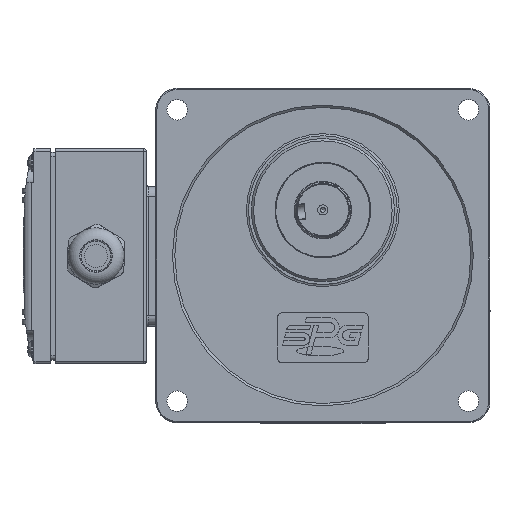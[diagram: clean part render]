
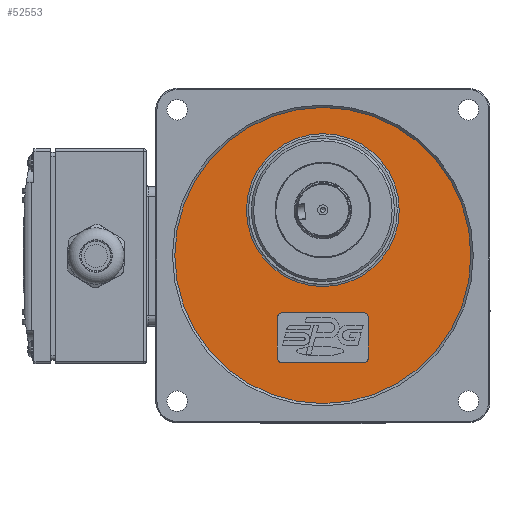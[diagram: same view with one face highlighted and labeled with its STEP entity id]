
A CAD part, top view. The second image highlights one B-rep face of the part: STEP entity #52553.
In plain terms, the highlighted planar face has unit normal (0, 0, 1).
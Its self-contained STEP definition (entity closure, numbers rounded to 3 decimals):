
#2970=FACE_BOUND('',#10686,.T.);
#2971=FACE_BOUND('',#10687,.T.);
#3884=PLANE('',#57782);
#7524=FACE_OUTER_BOUND('',#10685,.T.);
#10685=EDGE_LOOP('',(#44848));
#10686=EDGE_LOOP('',(#44849,#44850,#44851,#44852,#44853,#44854,#44855,#44856));
#10687=EDGE_LOOP('',(#44857));
#13864=CIRCLE('',#57781,32.);
#13865=CIRCLE('',#57783,62.);
#13866=CIRCLE('',#57784,2.);
#13867=CIRCLE('',#57785,2.);
#13868=CIRCLE('',#57786,2.);
#13869=CIRCLE('',#57787,2.);
#16416=LINE('',#114224,#19039);
#16417=LINE('',#114228,#19040);
#16418=LINE('',#114232,#19041);
#16419=LINE('',#114236,#19042);
#19039=VECTOR('',#70241,17.);
#19040=VECTOR('',#70244,34.);
#19041=VECTOR('',#70247,17.);
#19042=VECTOR('',#70250,34.);
#23570=VERTEX_POINT('',#114216);
#23571=VERTEX_POINT('',#114220);
#23572=VERTEX_POINT('',#114222);
#23573=VERTEX_POINT('',#114223);
#23574=VERTEX_POINT('',#114225);
#23575=VERTEX_POINT('',#114227);
#23576=VERTEX_POINT('',#114229);
#23577=VERTEX_POINT('',#114231);
#23578=VERTEX_POINT('',#114233);
#23579=VERTEX_POINT('',#114235);
#30769=EDGE_CURVE('',#23570,#23570,#13864,.T.);
#30770=EDGE_CURVE('',#23571,#23571,#13865,.T.);
#30771=EDGE_CURVE('',#23572,#23573,#16416,.T.);
#30772=EDGE_CURVE('',#23574,#23573,#13866,.T.);
#30773=EDGE_CURVE('',#23574,#23575,#16417,.T.);
#30774=EDGE_CURVE('',#23576,#23575,#13867,.T.);
#30775=EDGE_CURVE('',#23576,#23577,#16418,.T.);
#30776=EDGE_CURVE('',#23578,#23577,#13868,.T.);
#30777=EDGE_CURVE('',#23578,#23579,#16419,.T.);
#30778=EDGE_CURVE('',#23572,#23579,#13869,.T.);
#44848=ORIENTED_EDGE('',*,*,#30770,.T.);
#44849=ORIENTED_EDGE('',*,*,#30771,.T.);
#44850=ORIENTED_EDGE('',*,*,#30772,.F.);
#44851=ORIENTED_EDGE('',*,*,#30773,.T.);
#44852=ORIENTED_EDGE('',*,*,#30774,.F.);
#44853=ORIENTED_EDGE('',*,*,#30775,.T.);
#44854=ORIENTED_EDGE('',*,*,#30776,.F.);
#44855=ORIENTED_EDGE('',*,*,#30777,.T.);
#44856=ORIENTED_EDGE('',*,*,#30778,.F.);
#44857=ORIENTED_EDGE('',*,*,#30769,.F.);
#52553=ADVANCED_FACE('',(#7524,#2970,#2971),#3884,.F.);
#57781=AXIS2_PLACEMENT_3D('',#114218,#70235,#70236);
#57782=AXIS2_PLACEMENT_3D('',#114219,#70237,#70238);
#57783=AXIS2_PLACEMENT_3D('',#114221,#70239,#70240);
#57784=AXIS2_PLACEMENT_3D('',#114226,#70242,#70243);
#57785=AXIS2_PLACEMENT_3D('',#114230,#70245,#70246);
#57786=AXIS2_PLACEMENT_3D('',#114234,#70248,#70249);
#57787=AXIS2_PLACEMENT_3D('',#114237,#70251,#70252);
#70235=DIRECTION('center_axis',(0.,0.,1.));
#70236=DIRECTION('ref_axis',(-1.,0.,0.));
#70237=DIRECTION('center_axis',(0.,0.,-1.));
#70238=DIRECTION('ref_axis',(-1.,0.,0.));
#70239=DIRECTION('center_axis',(0.,0.,1.));
#70240=DIRECTION('ref_axis',(-1.,0.,0.));
#70241=DIRECTION('',(0.,1.,0.));
#70242=DIRECTION('center_axis',(0.,0.,1.));
#70243=DIRECTION('ref_axis',(-0.707,0.707,0.));
#70244=DIRECTION('',(1.,0.,0.));
#70245=DIRECTION('center_axis',(0.,0.,1.));
#70246=DIRECTION('ref_axis',(0.707,0.707,0.));
#70247=DIRECTION('',(0.,-1.,0.));
#70248=DIRECTION('center_axis',(0.,0.,1.));
#70249=DIRECTION('ref_axis',(0.707,-0.707,0.));
#70250=DIRECTION('',(-1.,0.,0.));
#70251=DIRECTION('center_axis',(0.,0.,1.));
#70252=DIRECTION('ref_axis',(-0.707,-0.707,0.));
#114216=CARTESIAN_POINT('',(-43.04,16.393,24.75));
#114218=CARTESIAN_POINT('Origin',(-11.04,16.393,24.75));
#114219=CARTESIAN_POINT('Origin',(-11.04,-2.607,24.75));
#114220=CARTESIAN_POINT('',(50.96,-2.607,24.75));
#114221=CARTESIAN_POINT('Origin',(-11.04,-2.607,24.75));
#114222=CARTESIAN_POINT('',(-30.04,-45.607,24.75));
#114223=CARTESIAN_POINT('',(-30.04,-28.607,24.75));
#114224=CARTESIAN_POINT('',(-30.04,-45.607,24.75));
#114225=CARTESIAN_POINT('',(-28.04,-26.607,24.75));
#114226=CARTESIAN_POINT('Origin',(-28.04,-28.607,24.75));
#114227=CARTESIAN_POINT('',(5.96,-26.607,24.75));
#114228=CARTESIAN_POINT('',(-28.04,-26.607,24.75));
#114229=CARTESIAN_POINT('',(7.96,-28.607,24.75));
#114230=CARTESIAN_POINT('Origin',(5.96,-28.607,24.75));
#114231=CARTESIAN_POINT('',(7.96,-45.607,24.75));
#114232=CARTESIAN_POINT('',(7.96,-28.607,24.75));
#114233=CARTESIAN_POINT('',(5.96,-47.607,24.75));
#114234=CARTESIAN_POINT('Origin',(5.96,-45.607,24.75));
#114235=CARTESIAN_POINT('',(-28.04,-47.607,24.75));
#114236=CARTESIAN_POINT('',(5.96,-47.607,24.75));
#114237=CARTESIAN_POINT('Origin',(-28.04,-45.607,24.75));
